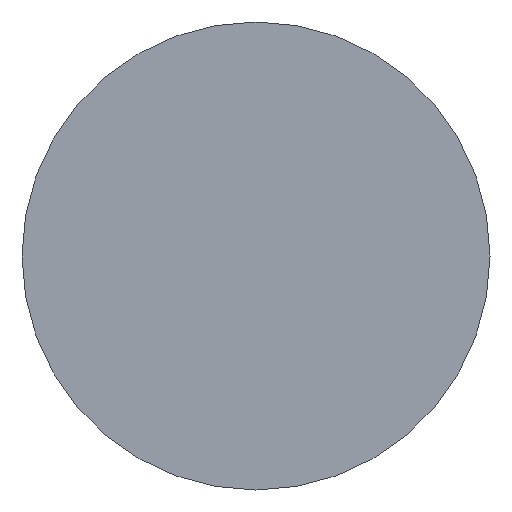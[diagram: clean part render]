
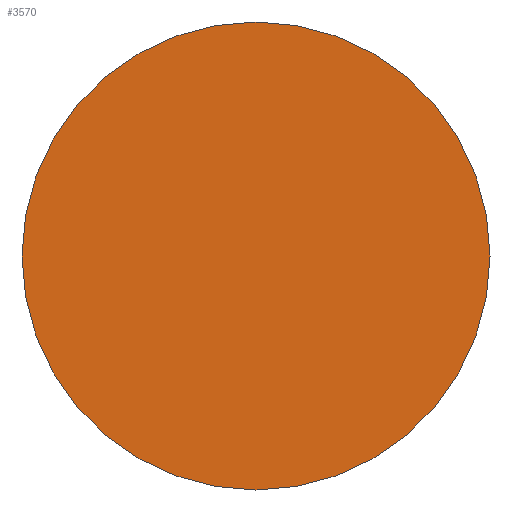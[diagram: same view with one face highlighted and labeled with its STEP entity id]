
A CAD part, front view. The second image highlights one B-rep face of the part: STEP entity #3570.
In plain terms, the highlighted planar face has unit normal (0, -1, 0).
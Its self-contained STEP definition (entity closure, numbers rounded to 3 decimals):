
#67 = CIRCLE ( 'NONE', #1048, 34. ) ;
#142 = EDGE_CURVE ( 'NONE', #3968, #161, #2977, .T. ) ;
#161 = VERTEX_POINT ( 'NONE', #1242 ) ;
#260 = CARTESIAN_POINT ( 'NONE',  ( 34., -25., 0. ) ) ;
#441 = EDGE_LOOP ( 'NONE', ( #2051, #1940 ) ) ;
#619 = CARTESIAN_POINT ( 'NONE',  ( 0., -25., 0. ) ) ;
#649 = PLANE ( 'NONE',  #721 ) ;
#721 = AXIS2_PLACEMENT_3D ( 'NONE', #2860, #1929, #923 ) ;
#923 = DIRECTION ( 'NONE',  ( 1., 0., 0. ) ) ;
#1048 = AXIS2_PLACEMENT_3D ( 'NONE', #619, #3685, #2784 ) ;
#1242 = CARTESIAN_POINT ( 'NONE',  ( -34., -25., 0. ) ) ;
#1487 = CARTESIAN_POINT ( 'NONE',  ( 0., -25., 0. ) ) ;
#1929 = DIRECTION ( 'NONE',  ( 0., -1., 0. ) ) ;
#1940 = ORIENTED_EDGE ( 'NONE', *, *, #3219, .T. ) ;
#2051 = ORIENTED_EDGE ( 'NONE', *, *, #142, .T. ) ;
#2177 = DIRECTION ( 'NONE',  ( 0., -1., 0. ) ) ;
#2784 = DIRECTION ( 'NONE',  ( 1., 0., 0. ) ) ;
#2786 = AXIS2_PLACEMENT_3D ( 'NONE', #1487, #2177, #3109 ) ;
#2860 = CARTESIAN_POINT ( 'NONE',  ( 34., -25., 0. ) ) ;
#2977 = CIRCLE ( 'NONE', #2786, 34. ) ;
#3109 = DIRECTION ( 'NONE',  ( 1., 0., 0. ) ) ;
#3219 = EDGE_CURVE ( 'NONE', #161, #3968, #67, .T. ) ;
#3570 = ADVANCED_FACE ( 'NONE', ( #3780 ), #649, .T. ) ;
#3685 = DIRECTION ( 'NONE',  ( 0., -1., 0. ) ) ;
#3780 = FACE_OUTER_BOUND ( 'NONE', #441, .T. ) ;
#3968 = VERTEX_POINT ( 'NONE', #260 ) ;
